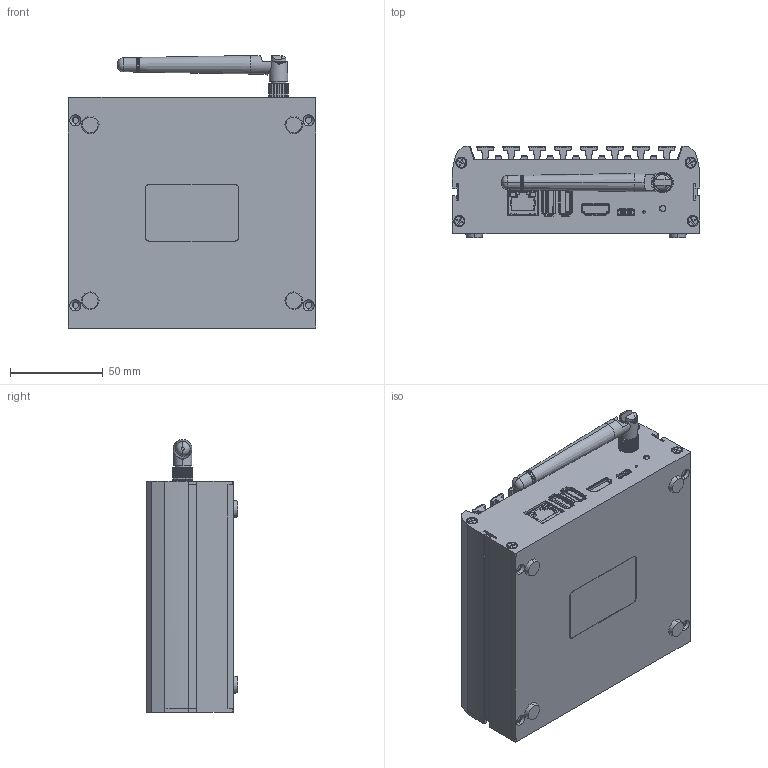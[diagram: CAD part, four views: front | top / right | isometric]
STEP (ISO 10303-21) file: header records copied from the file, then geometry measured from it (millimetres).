
FILE_DESCRIPTION (( 'STEP AP203' ), '1' );
FILE_NAME ('TVBOX4P_通用3D（2025.01.13）.STEP', '2026-01-13T08:07:36', ( 'h''w''s''j''s' ), ( '' ), 'SwSTEP 2.0', 'SolidWorks 2020', '' );
FILE_SCHEMA (( 'CONFIG_CONTROL_DESIGN' ));
Length unit declared in the file: millimetre
Products named in the file (1): TVBOX4P_通用3D（2025.01.13）
Bounding box: 134 x 49.4 x 147.5 mm (x, y, z)
Volume: 720849.6 mm3; surface area: 98208.4 mm2
Topology: 3 solids, 24 shells, 1787 faces, 4850 edges, 3181 vertices
Faces by surface type: plane 816, cylinder 812, bspline 91, cone 60, torus 8
Entity records: 75288 total; most frequent: CARTESIAN_POINT 29937, ORIENTED_EDGE 9700, DIRECTION 9395, EDGE_CURVE 4850, AXIS2_PLACEMENT_3D 3292, VERTEX_POINT 3181, VECTOR 2811, LINE 2811
